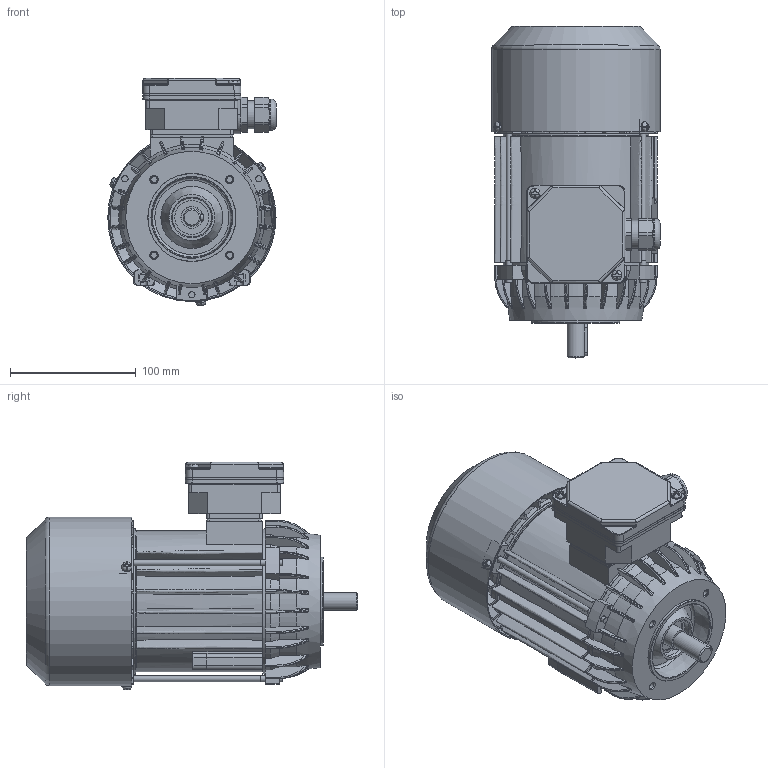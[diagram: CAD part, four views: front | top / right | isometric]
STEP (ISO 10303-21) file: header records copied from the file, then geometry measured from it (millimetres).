
FILE_DESCRIPTION( ( 'Unknown' ), '1' );
FILE_NAME( 'G:/Poczta Tk-1/STP/w.m.71/Sh71/SKh71-.C2.stp', 'Unknown', ( 'K. Szlosek' ), ( 'BESEL S.A.' ), 'PSStep 17.0.49', 'Unknown', ' ' );
FILE_SCHEMA( ( 'AUTOMOTIVE_DESIGN { 1 0 10303 214 1 1 1 1 }' ) );
Length unit declared in the file: millimetre
Products named in the file (29): skrznka zaciskowa trójfazowa ; K4-2820 Uszczelka nr 2 Sh71,80; Dławnica M20x1,5; K2-0859 Podstawa skrzynki 6-cio zaciskowej; K2-0860 Pokrywka skrzynki zaciskowej; Assem1; K3-2975 Osłona przewietrznika Sh71-.B,C; K4-2320 Uszczelka nr 1 Sh71,80; K1-1194 Kadłub z zamkami Sh71-.C; K3-6469 Tarcza łożyskowa P S(E,M)h71-B,C; Wpust A5x5x25; Wkręt samogwintujący M4x8; Nitokołek A 2x6; k3-4489 Wał SKh71 x-2C1; Wkręt samogwintujący M4x16; K3-3984 Przewietrznik Sh71; Łożysko 6203; Śruba ściągająca E_M5x130; Tabliczka znamionowa 32x44; K1-1245 Tarcza kołnierzowa B14_2 w.m. 71
Assembly tree (44 placements, depth 3):
  Assem1
    K3-2975 Osłona przewietrznika Sh71-.B,C
    K4-2320 Uszczelka nr 1 Sh71,80
    K1-1194 Kadłub z zamkami Sh71-.C
    K3-6469 Tarcza łożyskowa P S(E,M)h71-B,C
    Wpust A5x5x25
    Wkręt samogwintujący M4x8  x3
    Nitokołek A 2x6  x2
    k3-4489 Wał SKh71 x-2C1
    Wkręt samogwintujący M4x16  x2
    K3-3984 Przewietrznik Sh71
    Łożysko 6203  x2
    Łożysko 6203  x2
    Łożysko 6203  x2
    Łożysko 6203  x2
    Łożysko 6203  x2
    Łożysko 6203  x2
    Łożysko 6203  x2
    Łożysko 6203  x2
    Łożysko 6203  x2
    Łożysko 6203  x2
    Śruba ściągająca E_M5x130  x3
    Tabliczka znamionowa 32x44
    K1-1245 Tarcza kołnierzowa B14_2 w.m. 71
    skrznka zaciskowa trójfazowa 
      K4-2820 Uszczelka nr 2 Sh71,80
      Dławnica M20x1,5
      K2-0859 Podstawa skrzynki 6-cio zaciskowej
      K2-0860 Pokrywka skrzynki zaciskowej
Bounding box: 133.8 x 263.5 x 180.57 mm (x, y, z)
Volume: 624149.9 mm3; surface area: 446070.6 mm2
Topology: 43 solids, 59 shells, 2518 faces, 6874 edges, 4413 vertices
Faces by surface type: plane 976, cylinder 726, bspline 401, torus 198, cone 177, sphere 40
Full cylindrical faces by diameter (mm): 2 x2, 2.4 x2, 3.7 x7, 3.8 x4, 4 x5, 4.5 x1, 4.6 x3, 4.8 x4, 4.917 x4, 5 x10, 5.5 x3, 7 x1, 8 x9, 14 x1, 15.9 x1, 16.1 x1, 16.5 x1, 17 x4, 17.4 x2, 18.376 x1, 18.38 x1, 20 x1, 22 x2, 22.3 x1, 22.5 x1, 23.1 x1, 24 x1, 24.498 x4, 25 x1, 27 x1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
Entity records: 156076 total; most frequent: CARTESIAN_POINT 80814, ORIENTED_EDGE 12290, DIRECTION 10713, EDGE_CURVE 6145, AXIS2_PLACEMENT_3D 4113, VERTEX_POINT 4086, EDGE_LOOP 2738, LINE 2487
